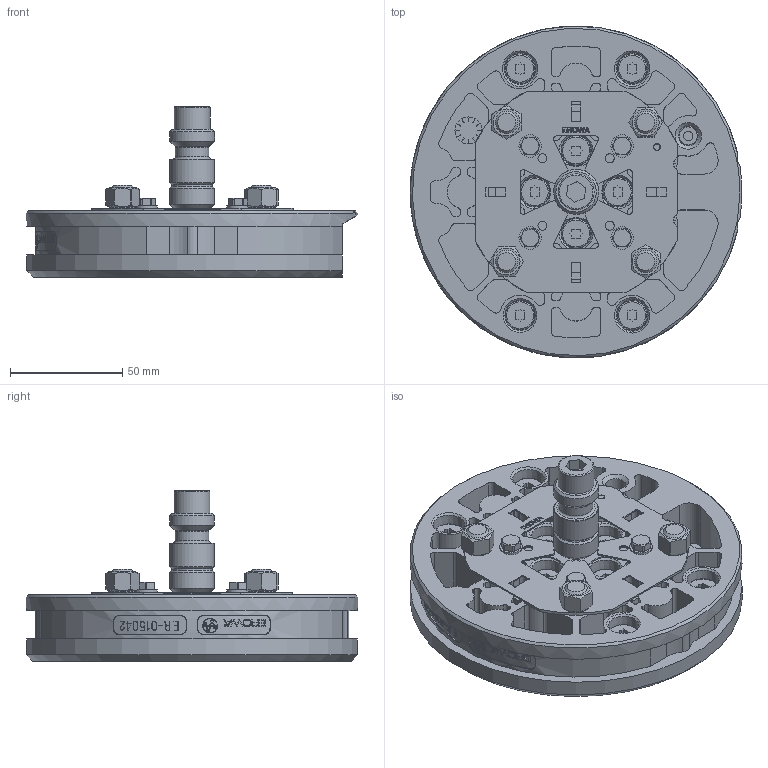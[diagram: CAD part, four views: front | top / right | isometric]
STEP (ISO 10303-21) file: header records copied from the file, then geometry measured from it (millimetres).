
FILE_DESCRIPTION(/* description */ (''),/* implementation_level */ '2;1');
FILE_NAME(/* name */ '015042-DUM02.stp',/* time_stamp */ '2015-07-30T13:17:31+02:00',/* author */ (''),/* organization */ (''),/* preprocessor_version */ 'ST-DEVELOPER v11',/* originating_system */ 'SIEMENS UGS NX 6.0',/* authorisation */ '');
FILE_SCHEMA (('AUTOMOTIVE_DESIGN { 1 0 10303 214 1 1 1 1 }'));
Length unit declared in the file: millimetre
Products named in the file (1): diet08F7aslp
Bounding box: 147.89 x 147.95 x 76.02 mm (x, y, z)
Volume: 334723.4 mm3; surface area: 130128 mm2
Topology: 1 solids, 33 shells, 1616 faces, 4296 edges, 2851 vertices
Faces by surface type: plane 776, cylinder 643, cone 164, torus 19, extrusion 14
Full cylindrical faces by diameter (mm): 0.763 x1, 3 x1, 4 x4, 4.1 x4, 4.2 x9, 4.3 x5, 4.826 x4, 5.1 x4, 6.8 x4, 6.985 x4, 7.7 x4, 8 x1, 8.1 x4, 8.5 x4, 8.75 x19, 8.8 x8, 10 x33, 10.5 x2, 12 x4, 13 x10, 13.3 x1, 15 x1, 16 x1, 18 x4, 20 x3
Entity records: 61428 total; most frequent: CARTESIAN_POINT 11716, DIRECTION 8156, ORIENTED_EDGE 7484, EDGE_CURVE 3742, AXIS2_PLACEMENT_3D 3111, VERTEX_POINT 2648, EDGE_LOOP 2092, VECTOR 1934
